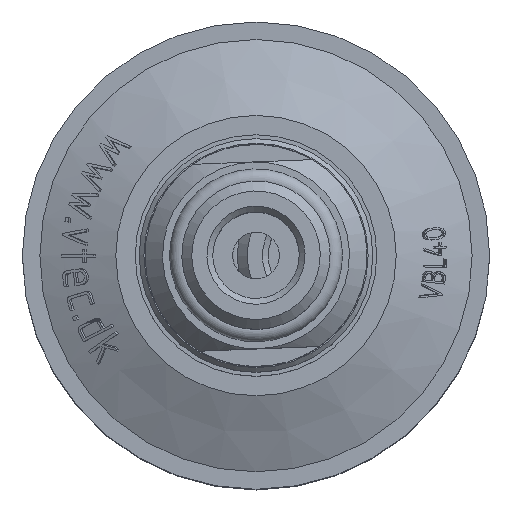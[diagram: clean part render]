
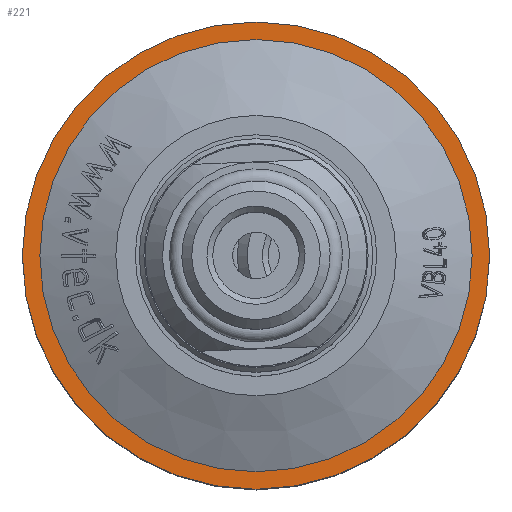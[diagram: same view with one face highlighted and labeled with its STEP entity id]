
A CAD part, top view. The second image highlights one B-rep face of the part: STEP entity #221.
In plain terms, the highlighted planar face has unit normal (0, 0, 1).
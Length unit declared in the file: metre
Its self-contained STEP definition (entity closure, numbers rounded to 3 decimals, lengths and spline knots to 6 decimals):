
#221 = ADVANCED_FACE( '', ( #536, #537 ), #538, .F. );
#536 = FACE_OUTER_BOUND( '', #2182, .T. );
#537 = FACE_BOUND( '', #2183, .T. );
#538 = PLANE( '', #2184 );
#2182 = EDGE_LOOP( '', ( #5531 ) );
#2183 = EDGE_LOOP( '', ( #5532 ) );
#2184 = AXIS2_PLACEMENT_3D( '', #5533, #5534, #5535 );
#5531 = ORIENTED_EDGE( '', *, *, #6716, .F. );
#5532 = ORIENTED_EDGE( '', *, *, #6500, .T. );
#5533 = CARTESIAN_POINT( '', ( -0.02, 0., 0.01295 ) );
#5534 = DIRECTION( '', ( 0., 0., -1. ) );
#5535 = DIRECTION( '', ( -1., 0., 0. ) );
#6500 = EDGE_CURVE( '', #7013, #7013, #7014, .T. );
#6716 = EDGE_CURVE( '', #7410, #7410, #7411, .T. );
#7013 = VERTEX_POINT( '', #7950 );
#7014 = CIRCLE( '', #7951, 0.0185 );
#7410 = VERTEX_POINT( '', #9657 );
#7411 = CIRCLE( '', #9658, 0.02 );
#7950 = CARTESIAN_POINT( '', ( -0.0185, 0., 0.01295 ) );
#7951 = AXIS2_PLACEMENT_3D( '', #10916, #10917, #10918 );
#9657 = CARTESIAN_POINT( '', ( -0.02, 0., 0.01295 ) );
#9658 = AXIS2_PLACEMENT_3D( '', #10946, #10947, #10948 );
#10916 = CARTESIAN_POINT( '', ( 0., 0., 0.01295 ) );
#10917 = DIRECTION( '', ( 0., 0., -1. ) );
#10918 = DIRECTION( '', ( -1., 0., 0. ) );
#10946 = CARTESIAN_POINT( '', ( 0., 0., 0.01295 ) );
#10947 = DIRECTION( '', ( 0., 0., -1. ) );
#10948 = DIRECTION( '', ( -1., 0., 0. ) );
